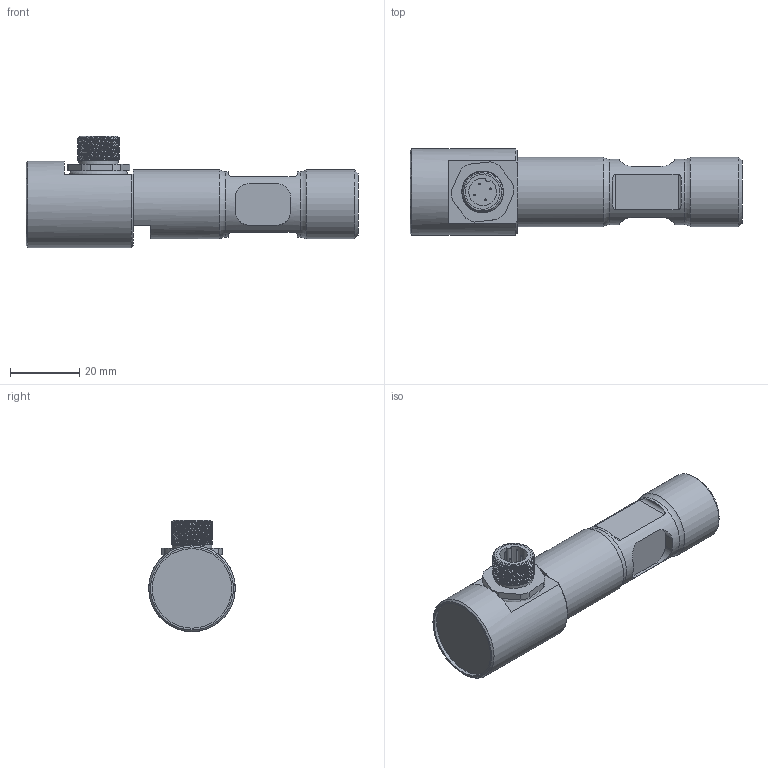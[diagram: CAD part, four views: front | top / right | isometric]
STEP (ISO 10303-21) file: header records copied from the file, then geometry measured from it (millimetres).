
FILE_DESCRIPTION(/* description */ ('Alibre Inc.'),/* implementation_level */ '2;1');
FILE_NAME(/* name */ 'export0',/* time_stamp */ '2015-12-05T04:39:58+01:00',/* author */ (''),/* organization */ (''),/* preprocessor_version */ 'ST-DEVELOPER v14',/* originating_system */ 'Alibre',/* authorisation */ '');
FILE_SCHEMA (('CONFIG_CONTROL_DESIGN'));
Length unit declared in the file: centimetre
Products named in the file (6): ID_1; ID_2; ID_3; ID_4
Bounding box: 96 x 25 x 32.17 mm (x, y, z)
Volume: 32250.4 mm3; surface area: 11368.7 mm2
Topology: 8 solids, 8 shells, 150 faces, 333 edges, 207 vertices
Faces by surface type: plane 66, cylinder 51, bspline 23, cone 7, torus 3
Full cylindrical faces by diameter (mm): 0.5 x8, 8 x2, 10 x3, 11.5 x1, 13 x1, 14.376 x1, 19 x1, 20 x2, 23 x1, 25 x1
Entity records: 14477 total; most frequent: CARTESIAN_POINT 11224, ORIENTED_EDGE 584, DIRECTION 402, EDGE_CURVE 287, FACE_BOUND 197, EDGE_LOOP 196, VERTEX_POINT 193, AXIS2_PLACEMENT_3D 181
